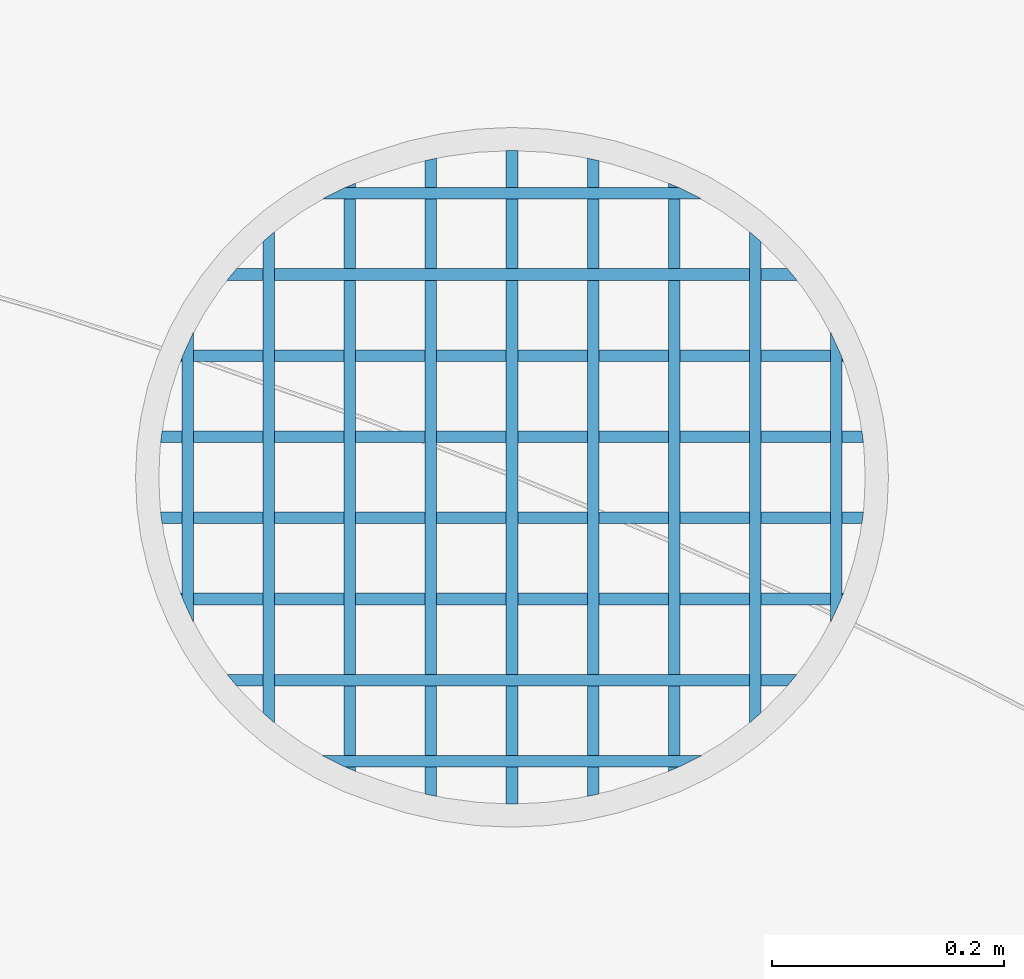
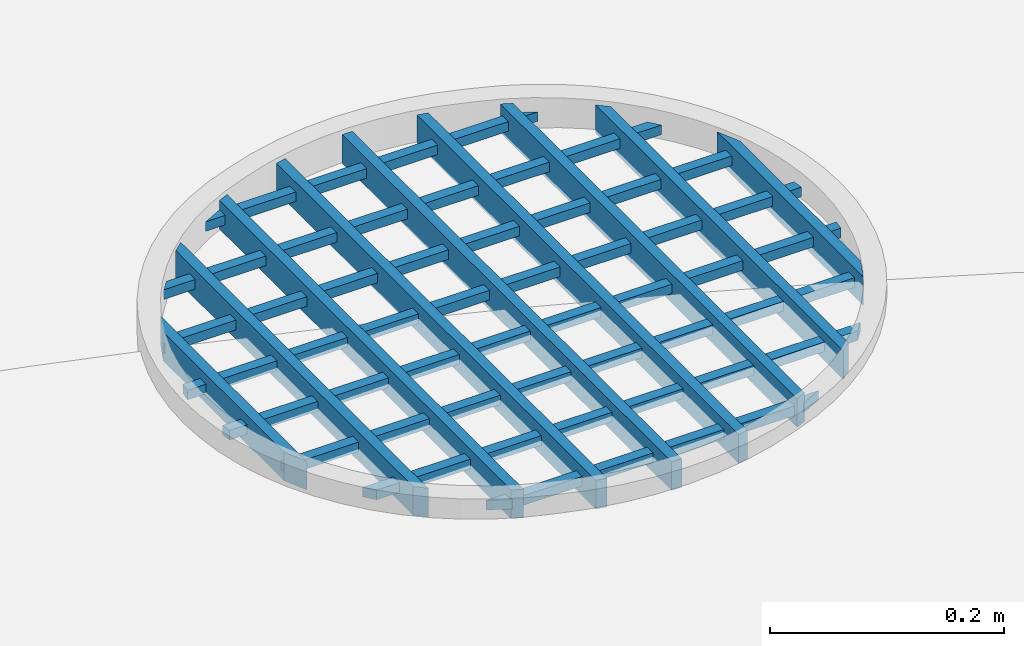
# One storey, part 51 of 133: 17 members, 1 element without a shape of its own.
"""IFC2X3 building model written with IfcOpenShell, lengths in centimetres."""

from ifc_helpers import new_model, entity, si_unit, converted_unit, direction, frame, origin, origin_with_axes, place, context, subcontext, project, spatial, faceted_brep, material, type_object, element, aggregate, save


model = new_model("IFC2X3")

# Units and contexts
model_context = context("Model", 3, precision=0.0001, world=origin(), true_north=direction((0.225632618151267, 0.974212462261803, 0.0)))
body_context = subcontext(model_context, "Body", "Model", "MODEL_VIEW")
ifc_project = project(units=[si_unit("LENGTHUNIT", "METRE", prefix="CENTI"), si_unit("AREAUNIT", "SQUARE_METRE", prefix="CENTI"), si_unit("VOLUMEUNIT", "CUBIC_METRE", prefix="CENTI"), converted_unit("PLANEANGLEUNIT", "DEGREE", entity("IfcRatioMeasure", 0.0174532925), si_unit("PLANEANGLEUNIT", "RADIAN"), dimensions=[0, 0, 0, 0, 0, 0, 0])], contexts=[model_context])

# Site, building, storey
site_placement = place(None, origin_with_axes())
site = spatial("IfcSite", under=ifc_project, at=site_placement, Name="Default Site", CompositionType="ELEMENT")
building_placement = place(site_placement, origin_with_axes())
building = spatial("IfcBuilding", under=site, at=building_placement, Name="Default Building", CompositionType="ELEMENT")
storey_placement = place(building_placement, frame((0.0, 0.0, -291.400371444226), z_axis=(0.0, 0.0, 1.0), x_axis=(1.0, 0.0, 0.0)))
storey = spatial("IfcBuildingStorey", under=building, at=storey_placement, Name="Rez-de-Jardin", CompositionType="ELEMENT", Elevation=-291.400371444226)

# Assembly, members
building_element_proxy_type = type_object("IfcBuildingElementProxyType", Name="Type Object", PredefinedType="NOTDEFINED")
assembly_placement = place(storey_placement, frame((-1567.12095618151, 431.890015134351, 110.0), z_axis=(0.0, -1.0, -9.43689570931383e-16), x_axis=(1.0, 0.0, 0.0)))
assembly = element("IfcElementAssembly", 1, at=assembly_placement, inside=storey, type_object=building_element_proxy_type, Name="Panneau 303655", ObjectType="Precast panel", PredefinedType="USERDEFINED")
ifc_material = material(Name="Acier")
member_1_placement = place(assembly_placement, frame((48.8991647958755, 0.499999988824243, 54.1905760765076), z_axis=(0.451180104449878, -9.22707054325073e-22, 0.892432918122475), x_axis=(0.892432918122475, -4.25773959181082e-16, -0.451180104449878)))
member_1 = element("IfcMember", 2, at=member_1_placement, material=ifc_material, Name="4294966923", context=body_context, shape_type="Brep", body=[
    faceted_brep([(1.27675647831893e-13, 5.24753851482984e-14, 6.66133814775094e-14), (-2.21642088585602, 5.15212872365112e-14, -4.80326970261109e-06), (-2.21642088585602, -0.999999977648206, -4.80326970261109e-06), (1.27675647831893e-13, -0.999999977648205, 6.66133814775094e-14), (-29.2908582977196, -0.999999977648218, -14.8083427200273), (-27.9767974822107, -0.999999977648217, -13.023469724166), (-27.9767974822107, 4.05925307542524e-14, -13.023469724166), (-29.2908582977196, 3.99853761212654e-14, -14.8083427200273), (-2.21642088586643, -0.999999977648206, 6.66133814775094e-14), (-27.9768008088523, -0.999999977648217, -13.0234672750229), (-2.21642088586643, 5.15212872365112e-14, 6.67681939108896e-14), (-27.9768008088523, 4.05925293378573e-14, -13.0234672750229), (-2.21642088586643, 5.15212872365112e-14, 6.66133814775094e-14), (1.27675647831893e-13, 5.24649815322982e-14, 6.66133814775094e-14), (-29.2908582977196, 3.99936831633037e-14, -14.8083427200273), (-27.9768008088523, 4.05531762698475e-14, -13.0234672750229), (1.27762319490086e-13, -0.999999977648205, 6.64419451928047e-14)], [[[0, 1, 2, 3]], [[4, 5, 6, 7]], [[3, 8, 9, 4]], [[8, 10, 11, 9]], [[12, 13, 14, 15]], [[0, 16, 4, 7]]]),
])
member_2_placement = place(assembly_placement, frame((57.08988904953, 0.499999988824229, 47.1905797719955), z_axis=(0.770488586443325, 9.41418249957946e-22, 0.637453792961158), x_axis=(0.637453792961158, -7.2710204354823e-16, -0.770488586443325)))
member_2 = element("IfcMember", 3, at=member_2_placement, material=ifc_material, Name="4294966922", context=body_context, shape_type="Brep", body=[
    faceted_brep([(9.95568644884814e-14, 6.66133814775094e-14, 1.55431223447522e-13), (-1.29787652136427, 6.56592835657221e-14, 1.68043092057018e-06), (-1.29787652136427, -0.999999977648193, 1.68043092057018e-06), (1.00283279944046e-13, -0.999999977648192, 1.55431222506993e-13), (-31.364510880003, -0.999999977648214, -37.9101950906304), (-31.6076115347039, -0.999999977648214, -36.6352899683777), (-31.6076115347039, 4.36282950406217e-14, -36.6352899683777), (-31.364510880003, 4.38017677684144e-14, -37.9101950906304), (1.00283279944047e-13, -0.999999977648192, 1.55431223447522e-13), (-1.29787652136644, -0.999999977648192, 1.55431223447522e-13), (-31.6076110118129, -0.999999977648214, -36.6352898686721), (-31.364510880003, -0.999999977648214, -37.9101950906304), (-1.29787652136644, 6.56592835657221e-14, 1.55431223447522e-13), (-31.6076110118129, 4.36282954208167e-14, -36.6352898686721), (9.95568644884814e-14, 6.6602972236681e-14, 1.55431223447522e-13), (-31.364510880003, 4.37978079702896e-14, -37.9101950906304), (-31.6076110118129, 4.36210481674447e-14, -36.6352898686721), (1.00283687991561e-13, -0.999999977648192, 1.55430885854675e-13)], [[[0, 1, 2, 3]], [[4, 5, 6, 7]], [[8, 9, 10, 11]], [[9, 12, 13, 10]], [[12, 14, 15, 16]], [[0, 17, 4, 7]]]),
])
member_3_placement = place(assembly_placement, frame((61.0966205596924, 0.499999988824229, 40.190577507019), z_axis=(0.923966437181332, 1.7813730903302e-21, 0.382473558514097), x_axis=(0.382473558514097, -8.7193749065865e-16, -0.923966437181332)))
member_3 = element("IfcMember", 4, at=member_3_placement, material=ifc_material, Name="4294966921", context=body_context, shape_type="Brep", body=[
    faceted_brep([(-1.11022302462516e-14, 5.45570533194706e-14, 2.22044604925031e-14), (-1.08229258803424, 5.36029554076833e-14, 2.21112973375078e-06), (-1.08229258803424, -0.999999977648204, 2.21112973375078e-06), (-1.11022302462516e-14, -0.999999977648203, 2.22044604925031e-14), (-21.8837080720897, -0.999999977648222, -52.8659075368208), (-22.6493527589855, -0.999999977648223, -52.1009613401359), (-22.6493527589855, 3.4781206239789e-14, -52.1009613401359), (-21.8837080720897, 3.54750950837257e-14, -52.8659075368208), (-1.08229258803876, -0.999999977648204, 3.33066907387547e-14), (-22.6493533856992, -0.999999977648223, -52.1009619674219), (-1.08229258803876, 5.36029554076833e-14, 3.36384336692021e-14), (-22.6493533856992, 3.4781205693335e-14, -52.1009619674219), (-1.08229258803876, 5.36029554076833e-14, 3.33066907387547e-14), (-1.11022302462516e-14, 5.45466468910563e-14, 2.22044604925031e-14), (-21.8837080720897, 3.5465515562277e-14, -52.8659075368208), (-22.6493533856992, 3.47979193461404e-14, -52.1009619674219), (-1.03578444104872e-14, -0.999999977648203, 2.18963238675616e-14)], [[[0, 1, 2, 3]], [[4, 5, 6, 7]], [[3, 8, 9, 4]], [[8, 10, 11, 9]], [[12, 13, 14, 15]], [[0, 16, 4, 7]]]),
])
member_4_placement = place(assembly_placement, frame((62.8172218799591, 0.499999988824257, 33.1905782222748), z_axis=(0.9918400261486, -1.77089569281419e-21, 0.127488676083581), x_axis=(0.127488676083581, -9.35989088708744e-16, -0.9918400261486)))
member_4 = element("IfcMember", 5, at=member_4_placement, material=ifc_material, Name="4294966920", context=body_context, shape_type="Brep", body=[
    faceted_brep([(-3.88578058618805e-14, -4.55364912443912e-14, 1.55431223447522e-13), (-1.00822614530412, -4.64905891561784e-14, -1.9075683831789e-06), (-1.00822614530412, -0.999999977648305, -1.9075683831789e-06), (-3.88578058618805e-14, -0.999999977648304, 1.55431223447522e-13), (-7.73314044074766, -0.999999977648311, -60.1625058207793), (-8.70859222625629, -0.999999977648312, -59.9075268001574), (-8.70859222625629, -5.36896916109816e-14, -59.9075268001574), (-7.73314044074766, -5.27355936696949e-14, -60.1625058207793), (-1.00822614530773, -0.999999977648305, 1.55431223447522e-13), (-8.70859219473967, -0.999999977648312, -59.9075266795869), (-1.00822614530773, -4.64905891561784e-14, 1.55541802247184e-13), (-8.70859219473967, -5.36896915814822e-14, -59.9075266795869), (-1.00822614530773, -4.64905891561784e-14, 1.55431223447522e-13), (-3.88578058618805e-14, -4.55469004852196e-14, 1.55431223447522e-13), (-7.73314044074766, -5.27851421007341e-14, -60.1625058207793), (-8.70859219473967, -5.3698153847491e-14, -59.9075266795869), (-3.7937029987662e-14, -0.999999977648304, 1.55312869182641e-13)], [[[0, 1, 2, 3]], [[4, 5, 6, 7]], [[3, 8, 9, 4]], [[8, 10, 11, 9]], [[12, 13, 14, 15]], [[0, 16, 4, 7]]]),
])
member_5_placement = place(assembly_placement, frame((62.688684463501, 0.499999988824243, 26.1905789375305), z_axis=(0.9918400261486, 1.77089569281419e-21, -0.127488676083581), x_axis=(-0.127488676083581, -9.35989088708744e-16, -0.9918400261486)))
member_5 = element("IfcMember", 6, at=member_5_placement, material=ifc_material, Name="4294966919", context=body_context, shape_type="Brep", body=[
    faceted_brep([(3.88578058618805e-14, -9.62771529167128e-15, 2.22044604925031e-14), (-1.00822614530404, -1.04950770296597e-14, 1.90756856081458e-06), (-1.00822614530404, -0.999999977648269, 1.90756856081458e-06), (3.88578058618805e-14, -0.999999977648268, 2.22044604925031e-14), (7.70036604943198, -0.999999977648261, -59.9075266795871), (6.72491426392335, -0.999999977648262, -60.162505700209), (6.72491426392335, -3.29597463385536e-15, -60.162505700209), (7.70036604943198, -2.34187669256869e-15, -59.9075266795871), (-1.00822614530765, -0.999999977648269, 2.22044604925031e-14), (6.72491429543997, -0.999999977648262, -60.1625058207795), (-1.00822614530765, -1.04950770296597e-14, 2.20938816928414e-14), (6.72491429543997, -3.29597460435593e-15, -60.1625058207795), (-1.00822614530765, -1.04950770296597e-14, 2.22044604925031e-14), (3.88578058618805e-14, -9.55138835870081e-15, 2.22044604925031e-14), (7.70036604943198, -2.34382366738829e-15, -59.9075266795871), (6.72491429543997, -3.25683541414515e-15, -60.1625058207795), (3.97785817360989e-14, -0.999999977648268, 2.23228147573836e-14)], [[[0, 1, 2, 3]], [[4, 5, 6, 7]], [[3, 8, 9, 4]], [[8, 10, 11, 9]], [[12, 13, 14, 15]], [[0, 16, 4, 7]]]),
])
member_6_placement = place(assembly_placement, frame((60.6826722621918, 0.499999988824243, 19.1905781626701), z_axis=(0.923966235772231, -2.24053122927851e-21, -0.382474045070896), x_axis=(-0.382474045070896, -8.71937300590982e-16, -0.923966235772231)))
member_6 = element("IfcMember", 7, at=member_6_placement, material=ifc_material, Name="4294966918", context=body_context, shape_type="Brep", body=[
    faceted_brep([(-1.11022302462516e-14, 8.67361737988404e-15, -1.38777878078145e-13), (-1.08229121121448, 7.80625564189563e-15, -2.78105705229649e-06), (-1.08229121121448, -0.99999997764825, -2.78105705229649e-06), (-1.11022302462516e-14, -0.99999997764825, -1.38777878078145e-13), (21.5670882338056, -0.999999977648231, -52.100950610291), (20.8014449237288, -0.999999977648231, -52.8658962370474), (20.8014449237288, 2.68882140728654e-14, -52.8658962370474), (21.5670882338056, 2.74953670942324e-14, -52.100950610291), (-1.08229121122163, -0.99999997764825, -1.33226762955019e-13), (20.8014446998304, -0.999999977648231, -52.8658960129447), (-1.08229121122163, 7.80625564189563e-15, -1.33558506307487e-13), (20.8014446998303, 2.68882138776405e-14, -52.8658960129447), (20.8014446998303, -0.999999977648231, -52.8658960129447), (-1.08229121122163, 7.80625564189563e-15, -1.33226762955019e-13), (-1.11022302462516e-14, 8.74994571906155e-15, -1.38777878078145e-13), (21.5670882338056, 2.75549776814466e-14, -52.100950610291), (20.8014446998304, 2.68873828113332e-14, -52.8658960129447), (-1.03578447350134e-14, -0.99999997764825, -1.38469741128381e-13)], [[[0, 1, 2, 3]], [[4, 5, 6, 7]], [[3, 8, 9, 4]], [[8, 10, 11, 12]], [[13, 14, 15, 16]], [[0, 17, 4, 7]]]),
])
member_7_placement = place(assembly_placement, frame((56.2625527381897, 0.499999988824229, 12.1905788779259), z_axis=(0.770489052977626, -4.09272957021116e-22, -0.637453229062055), x_axis=(-0.637453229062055, -7.27102483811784e-16, -0.770489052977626)))
member_7 = element("IfcMember", 8, at=member_7_placement, material=ifc_material, Name="4294966917", context=body_context, shape_type="Brep", body=[
    faceted_brep([(-8.88178419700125e-14, -3.27862736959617e-14, -6.10622663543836e-14), (-1.29787766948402, -3.37403716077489e-14, -7.30552140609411e-07), (-1.29787766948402, -0.999999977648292, -7.30552140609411e-07), (-8.88178419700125e-14, -0.999999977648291, -6.10622663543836e-14), (30.3097076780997, -0.999999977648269, -36.635312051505), (30.0666058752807, -0.999999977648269, -37.9102181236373), (30.0666058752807, -1.09287576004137e-14, -37.9102181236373), (30.3097076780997, -1.07552855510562e-14, -36.635312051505), (-1.29787766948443, -0.999999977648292, -6.10622663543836e-14), (30.0666054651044, -0.999999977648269, -37.910218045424), (-1.29787766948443, -3.37403716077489e-14, -6.1394007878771e-14), (30.0666054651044, -1.09287578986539e-14, -37.910218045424), (-1.29787766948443, -3.37403716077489e-14, -6.10622663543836e-14), (-8.88178419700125e-14, -3.2796681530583e-14, -6.10622663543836e-14), (30.3097076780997, -1.075843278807e-14, -36.635312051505), (30.0666054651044, -1.09351935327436e-14, -37.910218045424), (-8.83861949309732e-14, -0.999999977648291, -6.07051492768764e-14)], [[[0, 1, 2, 3]], [[4, 5, 6, 7]], [[3, 8, 9, 4]], [[8, 10, 11, 9]], [[12, 13, 14, 15]], [[0, 16, 4, 7]]]),
])
member_8_placement = place(assembly_placement, frame((46.9211578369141, 0.499999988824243, 5.19057884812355), z_axis=(0.451178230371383, 2.8596710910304e-23, -0.892433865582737), x_axis=(-0.892433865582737, -4.25772190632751e-16, -0.451178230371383)))
member_8 = element("IfcMember", 9, at=member_8_placement, material=ifc_material, Name="4294966916", context=body_context, shape_type="Brep", body=[
    faceted_brep([(2.77555756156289e-14, 3.46944695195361e-15, -1.11022302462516e-14), (-2.21641853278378, 2.51534904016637e-15, 1.48864289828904e-07), (-2.21641853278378, -0.999999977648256, 1.48864289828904e-07), (2.77555756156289e-14, -0.999999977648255, -1.11022302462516e-14), (25.7604072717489, -0.999999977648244, -13.0234131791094), (27.0744704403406, -0.999999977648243, -14.8082815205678), (27.0744704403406, 1.50053578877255e-14, -14.8082815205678), (25.7604072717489, 1.43982048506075e-14, -13.0234131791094), (-2.21641853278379, -0.999999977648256, -1.11022302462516e-14), (27.0744708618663, -0.999999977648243, -14.8082812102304), (-2.21641853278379, 2.51534904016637e-15, -1.12570428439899e-14), (27.0744708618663, 1.50053580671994e-14, -14.8082812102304), (-2.21641853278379, 2.51534904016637e-15, -1.11022302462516e-14), (2.77555756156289e-14, 3.45903841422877e-15, -1.11022302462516e-14), (25.7604072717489, 1.44271038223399e-14, -13.0234131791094), (27.0744708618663, 1.49865956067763e-14, -14.8082812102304), (2.78422465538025e-14, -0.999999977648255, -1.09307944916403e-14)], [[[0, 1, 2, 3]], [[4, 5, 6, 7]], [[3, 8, 9, 4]], [[8, 10, 11, 9]], [[12, 13, 14, 15]], [[0, 16, 4, 7]]]),
])
member_9_placement = place(assembly_placement, frame((4.98848780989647, 1.49999996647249, 42.7045464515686), z_axis=(-0.909354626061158, 5.26300108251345e-23, 0.416021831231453), x_axis=(0.416021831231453, 8.58148476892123e-16, 0.909354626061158)))
member_9 = element("IfcMember", 10, at=member_9_placement, material=ifc_material, Name="4294966915", context=body_context, shape_type="Brep", body=[
    faceted_brep([(1.22124532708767e-13, 5.34294830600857e-14, -1.11022302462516e-13), (-2.40371950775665, 5.55111512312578e-14, -1.47419569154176e-07), (-2.40371950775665, -2.99999993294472, -1.47419569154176e-07), (1.22124532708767e-13, -2.99999993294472, -1.11022302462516e-13), (-22.7592700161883, -2.9999999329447, -10.4121680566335), (-21.1875929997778, -2.9999999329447, -8.5934582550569), (-21.1875929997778, 7.1470607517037e-14, -8.5934582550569), (-22.7592700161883, 7.28583859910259e-14, -10.4121680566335), (-2.40371950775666, -2.99999993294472, -1.11022302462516e-13), (-21.1875926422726, -2.9999999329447, -8.59345856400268), (-2.40371950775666, 5.55111512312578e-14, -1.11968789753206e-13), (-21.1875926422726, 7.14706072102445e-14, -8.59345856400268), (-2.40371950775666, 5.55111512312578e-14, -1.11022302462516e-13), (1.22124532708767e-13, 5.34484029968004e-14, -1.11022302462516e-13), (-22.7592700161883, 7.29792364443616e-14, -10.4121680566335), (-21.1875926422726, 7.16305038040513e-14, -8.59345856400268), (1.21678962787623e-13, -2.99999993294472, -1.10048360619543e-13)], [[[0, 1, 2, 3]], [[4, 5, 6, 7]], [[3, 8, 9, 4]], [[8, 10, 11, 9]], [[12, 13, 14, 15]], [[0, 16, 4, 7]]]),
])
member_10_placement = place(assembly_placement, frame((11.9884878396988, 1.4999999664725, 51.382452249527), z_axis=(-0.654373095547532, 3.52893669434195e-22, 0.756171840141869), x_axis=(0.756171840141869, 6.17525065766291e-16, 0.654373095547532)))
member_10 = element("IfcMember", 11, at=member_10_placement, material=ifc_material, Name="4294966914", context=body_context, shape_type="Brep", body=[
    faceted_brep([(0.0, 1.83880688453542e-14, -2.22044604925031e-14), (-1.32245045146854, 1.92554305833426e-14, -7.55733543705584e-07), (-1.32245045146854, -2.99999993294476, -7.55733543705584e-07), (0.0, -2.99999993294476, -2.22044604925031e-14), (-27.7347840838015, -2.99999993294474, -32.0493963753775), (-27.9246763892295, -2.99999993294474, -30.7406493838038), (-27.9246763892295, 3.55618314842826e-14, -30.7406493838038), (-27.7347840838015, 3.55618312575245e-14, -32.0493963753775), (-1.32245045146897, -2.99999993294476, -2.22044604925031e-14), (-27.9246760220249, -2.99999993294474, -30.7406493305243), (-1.32245045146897, 1.92554305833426e-14, -2.31125855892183e-14), (-27.9246760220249, 3.55618312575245e-14, -30.7406493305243), (-1.32245045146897, 1.92554305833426e-14, -2.22044604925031e-14), (3.13180529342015e-32, 1.84387842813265e-14, -2.22044604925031e-14), (-27.7347840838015, 3.5565719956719e-14, -32.0493963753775), (-27.9246760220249, 3.56829825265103e-14, -30.7406493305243), (-1.05929426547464e-15, -2.99999993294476, -2.12877724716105e-14)], [[[0, 1, 2, 3]], [[4, 5, 6, 7]], [[3, 8, 9, 4]], [[8, 10, 11, 9]], [[12, 13, 14, 15]], [[0, 16, 4, 7]]]),
])
member_11_placement = place(assembly_placement, frame((18.9884871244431, 1.4999999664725, 55.5767774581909), z_axis=(-0.399390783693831, 6.76952387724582e-22, 0.91678078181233), x_axis=(0.91678078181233, 3.7690091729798e-16, 0.399390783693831)))
member_11 = element("IfcMember", 12, at=member_11_placement, material=ifc_material, Name="4294966913", context=body_context, shape_type="Brep", body=[
    faceted_brep([(4.44089209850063e-14, 5.15212872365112e-14, 1.66533453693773e-14), (-1.09077226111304, 5.18682319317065e-14, -1.95913792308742e-06), (-1.09077226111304, -2.99999993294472, -1.95913792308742e-06), (4.44089209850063e-14, -2.99999993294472, 1.66533453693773e-14), (-20.2780278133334, -2.99999993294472, -46.5471587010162), (-21.0208146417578, -2.99999993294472, -45.7483757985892), (-21.0208146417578, 5.95010153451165e-14, -45.7483757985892), (-20.2780278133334, 5.91540705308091e-14, -46.5471587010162), (-1.09077226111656, -2.99999993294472, 2.77555756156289e-14), (-21.0208143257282, -2.99999993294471, -45.7483755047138), (-1.09077226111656, 5.18682319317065e-14, 2.73398760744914e-14), (-21.0208143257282, 5.95010152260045e-14, -45.7483755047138), (-1.09077226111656, 5.18682319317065e-14, 2.77555756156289e-14), (4.44089209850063e-14, 5.14571188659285e-14, 1.66533453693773e-14), (-20.2780278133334, 5.9099957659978e-14, -46.5471587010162), (-21.0208143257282, 5.9379914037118e-14, -45.7483755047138), (4.34585807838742e-14, -2.99999993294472, 1.70673561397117e-14)], [[[0, 1, 2, 3]], [[4, 5, 6, 7]], [[3, 8, 9, 4]], [[8, 10, 11, 9]], [[12, 13, 14, 15]], [[0, 16, 4, 7]]]),
])
member_12_placement = place(assembly_placement, frame((25.9884864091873, 1.4999999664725, 57.7345788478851), z_axis=(-0.213462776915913, 2.57128649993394e-23, 0.97695119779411), x_axis=(0.97695119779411, 2.01442596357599e-16, 0.213462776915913)))
member_12 = element("IfcMember", 13, at=member_12_placement, material=ifc_material, Name="4294966912", context=body_context, shape_type="Brep", body=[
    faceted_brep([(-3.33066907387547e-14, 5.86336534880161e-14, -1.11022302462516e-14), (-1.02359160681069, 5.88071258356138e-14, -1.30654963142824e-07), (-1.02359160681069, -2.99999993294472, -1.30654963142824e-07), (-3.33066907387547e-14, -2.99999993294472, -1.11022302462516e-14), (-11.7592369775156, -2.99999993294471, -53.81828539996), (-12.6895459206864, -2.99999993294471, -53.391360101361), (-12.6895459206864, 6.12357387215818e-14, -53.391360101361), (-11.7592369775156, 6.10622663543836e-14, -53.81828539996), (-1.0235916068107, -2.99999993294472, -2.22044604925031e-14), (-12.6895458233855, -2.99999993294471, -53.3913598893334), (-1.0235916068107, 5.88071258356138e-14, -2.23155501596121e-14), (-12.6895458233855, 6.12357387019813e-14, -53.3913598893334), (-1.0235916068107, 5.88071258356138e-14, -2.22044604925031e-14), (-3.33066907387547e-14, 5.8600930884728e-14, -1.11022302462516e-14), (-11.7592369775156, 6.09697434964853e-14, -53.81828539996), (-12.6895458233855, 6.11571473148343e-14, -53.3913598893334), (-3.38834814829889e-14, -2.99999993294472, -1.09762020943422e-14)], [[[0, 1, 2, 3]], [[4, 5, 6, 7]], [[3, 8, 9, 4]], [[8, 10, 11, 9]], [[12, 13, 14, 15]], [[0, 16, 4, 7]]]),
])
member_13_placement = place(assembly_placement, frame((32.9884886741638, 1.4999999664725, 58.3811581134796), z_axis=(0.0, 0.0, 1.0), x_axis=(1.0, 0.0, 0.0)))
member_13 = element("IfcMember", 14, at=member_13_placement, material=ifc_material, Name="4294966911", context=body_context, shape_type="Brep", body=[
    faceted_brep([(0.0, 4.44089209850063e-14, 4.44089209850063e-14), (-1.00000202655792, 4.44089209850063e-14, 3.3306668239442e-14), (-1.00000202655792, -2.99999993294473, 3.3306668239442e-14), (0.0, -2.99999993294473, 4.44089209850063e-14), (0.0, -2.99999993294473, -56.3811581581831), (-1.00000202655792, -2.99999993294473, -56.381158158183), (-1.00000202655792, 4.44089209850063e-14, -56.381158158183), (0.0, 4.44089209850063e-14, -56.3811581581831), (-1.00000202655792, -2.99999993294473, 4.44089209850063e-14), (-1.00000202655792, -2.99999993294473, -56.3811581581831), (-1.00000202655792, 4.44089209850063e-14, 4.44089209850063e-14), (-1.00000202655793, 4.44089209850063e-14, -56.3811581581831), (-1.00000202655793, -2.99999993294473, -56.3811581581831), (-1.00000202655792, 4.44089209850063e-14, -56.3811581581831), (-5.5511151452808e-15, -2.99999993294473, -56.3811581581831), (-5.5511151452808e-15, 4.44089209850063e-14, -56.3811581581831)], [[[0, 1, 2, 3]], [[4, 5, 6, 7]], [[3, 8, 9, 4]], [[8, 10, 11, 12]], [[10, 0, 7, 13]], [[0, 3, 14, 15]]]),
])
member_14_placement = place(assembly_placement, frame((39.9884879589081, 1.4999999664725, 57.5160801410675), z_axis=(0.213462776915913, 2.57128649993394e-23, 0.97695119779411), x_axis=(0.97695119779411, -2.01442596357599e-16, -0.213462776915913)))
member_14 = element("IfcMember", 15, at=member_14_placement, material=ifc_material, Name="4294966910", context=body_context, shape_type="Brep", body=[
    faceted_brep([(-1.66533453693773e-14, 7.16440795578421e-14, 1.11022302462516e-14), (-1.02359160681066, 7.14706072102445e-14, 1.30654963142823e-07), (-1.02359160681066, -2.9999999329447, 1.30654963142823e-07), (-1.66533453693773e-14, -2.9999999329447, 1.11022302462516e-14), (11.6659542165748, -2.9999999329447, -53.3913598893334), (10.7356452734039, -2.9999999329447, -53.8182851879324), (10.7356452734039, 7.38992200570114e-14, -53.8182851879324), (11.6659542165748, 7.40726924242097e-14, -53.3913598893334), (-1.02359160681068, -2.9999999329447, 1.11022302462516e-14), (10.7356453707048, -2.9999999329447, -53.81828539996), (-1.02359160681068, 7.14706072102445e-14, 1.09911405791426e-14), (10.7356453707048, 7.3899220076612e-14, -53.81828539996), (-1.02359160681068, 7.14706072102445e-14, 1.11022302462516e-14), (-1.66533453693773e-14, 7.16768021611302e-14, 1.11022302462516e-14), (11.6659542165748, 7.40268236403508e-14, -53.3913598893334), (10.7356453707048, 7.38394198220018e-14, -53.81828539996), (-1.60765546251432e-14, -2.9999999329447, 1.12282583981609e-14)], [[[0, 1, 2, 3]], [[4, 5, 6, 7]], [[3, 8, 9, 4]], [[8, 10, 11, 9]], [[12, 13, 14, 15]], [[0, 16, 4, 7]]]),
])
member_15_placement = place(assembly_placement, frame((46.9884872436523, 1.4999999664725, 55.1411330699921), z_axis=(0.399390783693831, 6.76952387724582e-22, 0.91678078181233), x_axis=(0.91678078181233, -3.7690091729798e-16, -0.399390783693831)))
member_15 = element("IfcMember", 16, at=member_15_placement, material=ifc_material, Name="4294966909", context=body_context, shape_type="Brep", body=[
    faceted_brep([(-4.71844785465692e-14, 5.22151766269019e-14, 1.33226762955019e-13), (-1.09077226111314, 5.16947595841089e-14, 1.95913807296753e-06), (-1.09077226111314, -2.99999993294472, 1.95913807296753e-06), (-4.71844785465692e-14, -2.99999993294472, 1.33226762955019e-13), (19.9300420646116, -2.99999993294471, -45.7483755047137), (19.1872552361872, -2.99999993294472, -46.5471584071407), (19.1872552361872, 5.93275427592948e-14, -46.5471584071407), (19.9300420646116, 5.96744875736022e-14, -45.7483755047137), (-1.09077226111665, -2.99999993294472, 1.22124532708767e-13), (19.1872555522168, -2.99999993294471, -46.5471587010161), (-1.09077226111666, 5.16947595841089e-14, 1.2170883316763e-13), (19.1872555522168, 5.93275428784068e-14, -46.5471587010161), (-1.09077226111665, 5.16947595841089e-14, 1.22124532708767e-13), (-4.71844785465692e-14, 5.21058726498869e-14, 1.33226762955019e-13), (19.9300420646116, 5.96175547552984e-14, -45.7483755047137), (19.1872555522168, 5.93375983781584e-14, -46.5471587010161), (-4.62341383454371e-14, -2.99999993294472, 1.33640773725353e-13)], [[[0, 1, 2, 3]], [[4, 5, 6, 7]], [[3, 8, 9, 4]], [[8, 10, 11, 9]], [[12, 13, 14, 15]], [[0, 16, 4, 7]]]),
])
member_16_placement = place(assembly_placement, frame((53.9884865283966, 1.4999999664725, 50.517076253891), z_axis=(0.654373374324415, 1.25231527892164e-22, 0.756171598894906), x_axis=(0.756171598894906, -6.17525328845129e-16, -0.654373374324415)))
member_16 = element("IfcMember", 17, at=member_16_placement, material=ifc_material, Name="4294966908", context=body_context, shape_type="Brep", body=[
    faceted_brep([(-6.93889390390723e-15, 4.8919202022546e-14, 1.11022302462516e-13), (-1.3224498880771, 4.80518402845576e-14, 2.68187361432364e-07), (-1.32244988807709, -2.99999993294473, 2.68187361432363e-07), (-4.16333634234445e-15, -2.99999993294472, 1.11022301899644e-13), (26.6022369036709, -2.99999993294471, -30.7406395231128), (26.4123451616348, -2.99999993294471, -32.0493860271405), (26.4123451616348, 6.52256021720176e-14, -32.0493860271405), (26.6022369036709, 6.52256026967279e-14, -30.7406395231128), (-4.16333634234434e-15, -2.99999993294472, 1.11022302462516e-13), (-1.32244988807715, -2.99999993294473, 1.11022302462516e-13), (26.4123460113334, -2.99999993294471, -32.0493861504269), (-1.32244988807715, 4.80518402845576e-14, 1.11476365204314e-13), (26.4123460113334, 6.52256026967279e-14, -32.0493861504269), (-1.32244988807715, 4.80518402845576e-14, 1.11022302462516e-13), (-6.93889390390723e-15, 4.88684865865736e-14, 1.11022302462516e-13), (26.6022369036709, 6.52960455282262e-14, -30.7406395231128), (26.4123460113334, 6.51787832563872e-14, -32.0493861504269), (-4.69109325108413e-15, -2.99999993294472, 1.1056559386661e-13)], [[[0, 1, 2, 3]], [[4, 5, 6, 7]], [[8, 9, 10, 4]], [[9, 11, 12, 10]], [[13, 14, 15, 16]], [[0, 17, 4, 7]]]),
])
member_17_placement = place(assembly_placement, frame((60.9884858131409, 1.49999996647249, 40.5187129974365), z_axis=(0.909354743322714, -1.89251206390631e-22, 0.416021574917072), x_axis=(0.416021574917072, -8.5814858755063e-16, -0.909354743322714)))
member_17 = element("IfcMember", 18, at=member_17_placement, material=ifc_material, Name="4294966907", context=body_context, shape_type="Brep", body=[
    faceted_brep([(-1.38777878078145e-15, 5.63785129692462e-14, 2.66453525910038e-13), (-2.40371919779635, 5.42968447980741e-14, -5.30102287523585e-07), (-2.40371919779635, -2.99999993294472, -5.30102287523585e-07), (1.38777878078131e-15, -2.99999993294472, 2.66453526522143e-13), (18.7838755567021, -2.9999999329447, -8.59345326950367), (20.3555528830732, -2.9999999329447, -10.412162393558), (20.3555528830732, 7.3899219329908e-14, -10.412162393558), (18.7838755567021, 7.25114412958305e-14, -8.59345326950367), (1.38777878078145e-15, -2.99999993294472, 2.66453525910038e-13), (-2.40371919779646, -2.99999993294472, 2.66453525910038e-13), (20.3555537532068, -2.9999999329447, -10.412161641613), (-2.40371919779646, 5.42968447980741e-14, 2.65507038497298e-13), (20.3555537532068, 7.3899220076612e-14, -10.412161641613), (-2.40371919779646, 5.42968447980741e-14, 2.66453525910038e-13), (-1.38777878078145e-15, 5.63595930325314e-14, 2.66453525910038e-13), (18.7838755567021, 7.24789476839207e-14, -8.59345326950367), (20.3555537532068, 7.38276807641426e-14, -10.412161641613), (1.35297177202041e-15, -2.99999993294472, 2.66377443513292e-13)], [[[0, 1, 2, 3]], [[4, 5, 6, 7]], [[8, 9, 10, 4]], [[9, 11, 12, 10]], [[13, 14, 15, 16]], [[0, 17, 4, 7]]]),
])
aggregate(assembly, [member_1, member_2, member_3, member_4, member_5, member_6, member_7, member_8, member_9, member_10, member_11, member_12, member_13, member_14, member_15, member_16, member_17])

save(model, "model.ifc")
